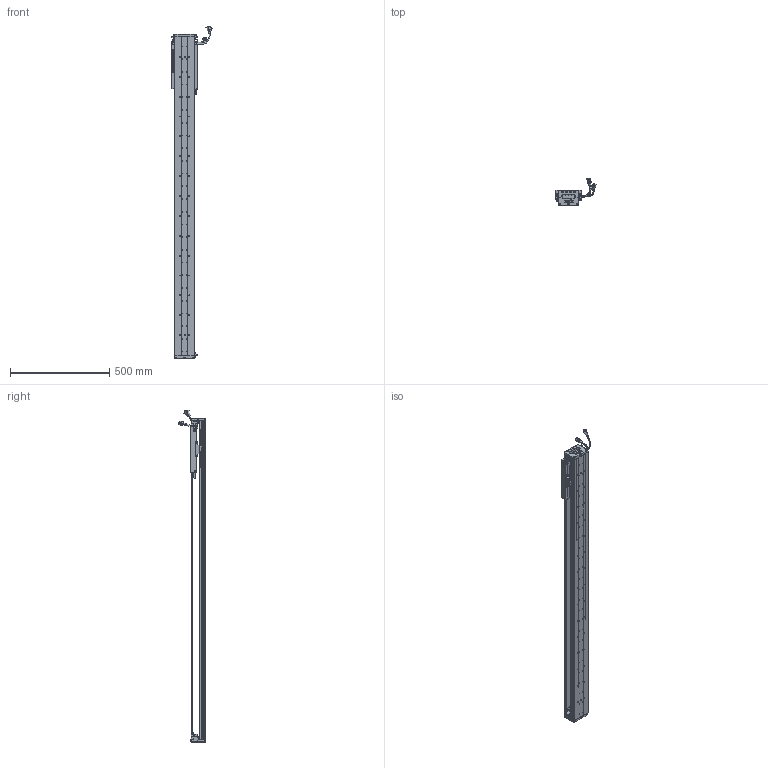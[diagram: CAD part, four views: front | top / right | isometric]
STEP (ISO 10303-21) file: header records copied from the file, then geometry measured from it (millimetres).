
FILE_DESCRIPTION (( 'STEP AP203' ), '1' );
FILE_NAME ('Z3-RY100D-1-L500-B-K.SLDASM_1300.step', '2021-05-17T02:50:41', ( '盈信电脑' ), ( '东莞市道滘镇水果街19号' ), 'SwSTEP 2.0', 'SolidWorks 2016', '' );
FILE_SCHEMA (( 'CONFIG_CONTROL_DESIGN' ));
Length unit declared in the file: millimetre
Products named in the file (36): Z-RY100D詩湍奻揤裔; 140雄赽晤鎢ん堤盄; Z3-RY100D-1-L500-B-K.SLDASM_1300; SCALE-Part-2; SCREW-M1.7-1; LABEL; SCREW-M1.6-2; SEAL; 覜茼ん672; Z-RY100D覜茼んえ; 140蚥薯蝶輸; Z3-RY100铝滑块（21款）; HARNESS-Part-1; Z3-RY100-L500詩湍90mm遵_1300; 080黍杅芛假蚾釱21遴; SHIELDPLATE; Z-100詩湍傷裔啣; HARNESS; SCREW-M1.6; 榋妏寠巭燃_暯_M2_2; LABEL-Part-1; SCREW-M1.6-3; COVER; Z-RY100D詩湍狟揤裔; PSLH080_PSLF2; SCALE-Part-1; COVER-Part-1; Z3-RY100D-500-倰第菁釱_1300; SCREW-M1.7; PBU_SHEET; SEAL-Part-1; 100-Z-臏賑輸盄裔(21遴); SCREW-M1.6-1; SCALE; HOLDER0; HARNESS-Part-2
Assembly tree (43 placements, depth 4):
  Z3-RY100D-1-L500-B-K.SLDASM_1300
    Z3-RY100D-500-倰第菁釱_1300
    Z3-RY100铝滑块（21款）
    PSLH080_PSLF2
      SCALE
        SCALE-Part-1
        SCALE-Part-2
      HARNESS
        HARNESS-Part-1
        HARNESS-Part-2
      LABEL
        LABEL-Part-1
      COVER
        COVER-Part-1
      SEAL
        SEAL-Part-1
      榋妏寠巭燃_暯_M2_2
      SHIELDPLATE
      SCREW-M1.7
      SCREW-M1.7-1
      PBU_SHEET
      SCREW-M1.6
      SCREW-M1.6-1
      SCREW-M1.6-2
      SCREW-M1.6-3
      HOLDER0
    080黍杅芛假蚾釱21遴
    Z-100詩湍傷裔啣  x2
    140蚥薯蝶輸  x2
    覜茼ん672  x3
    Z-RY100D覜茼んえ  x3
    100-Z-臏賑輸盄裔(21遴)
    140雄赽晤鎢ん堤盄
    Z3-RY100-L500詩湍90mm遵_1300
    Z-RY100D詩湍狟揤裔  x2
    Z-RY100D詩湍奻揤裔  x2
Bounding box: 205.83 x 136.11 x 1670.43 mm (x, y, z)
Volume: 3296834.7 mm3; surface area: 1276752.7 mm2
Topology: 38 solids, 38 shells, 2721 faces, 7243 edges, 4596 vertices
Faces by surface type: cylinder 1234, plane 1139, cone 226, torus 69, bspline 53
Entity records: 75645 total; most frequent: CARTESIAN_POINT 15897, DIRECTION 12061, ORIENTED_EDGE 11366, EDGE_CURVE 5683, AXIS2_PLACEMENT_3D 4472, VERTEX_POINT 3664, VECTOR 3117, LINE 3117
